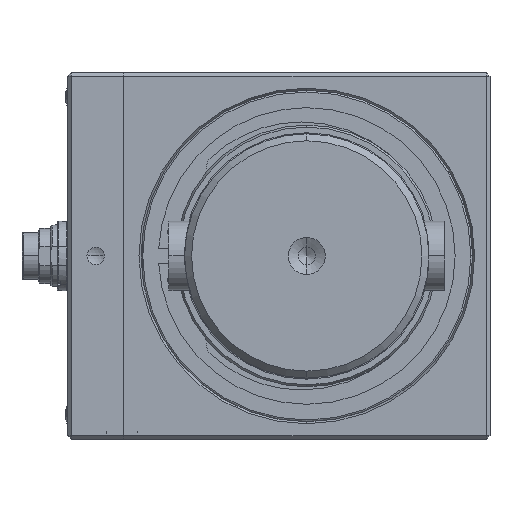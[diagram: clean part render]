
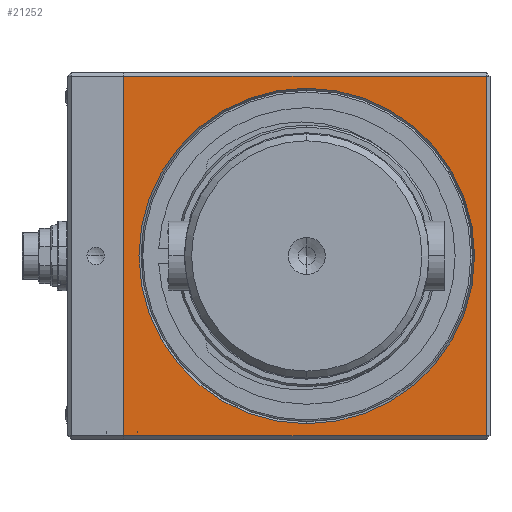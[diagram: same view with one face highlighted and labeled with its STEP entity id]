
A CAD part, left-side view. The second image highlights one B-rep face of the part: STEP entity #21252.
In plain terms, the highlighted planar face has unit normal (-1, 0, 0).
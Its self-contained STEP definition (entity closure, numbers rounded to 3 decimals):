
#648 = EDGE_LOOP ( 'NONE', ( #151722, #13462, #150979, #88430 ) ) ;
#1355 = EDGE_LOOP ( 'NONE', ( #25242, #99247 ) ) ;
#3096 = AXIS2_PLACEMENT_3D ( 'NONE', #38471, #153470, #22234 ) ;
#7714 = DIRECTION ( 'NONE',  ( 0., 0., 1. ) ) ;
#10822 = DIRECTION ( 'NONE',  ( 0., 0., 1. ) ) ;
#13462 = ORIENTED_EDGE ( 'NONE', *, *, #138278, .T. ) ;
#15148 = EDGE_CURVE ( 'NONE', #185961, #88871, #101540, .T. ) ;
#17148 = DIRECTION ( 'NONE',  ( 0., 1., 0. ) ) ;
#20211 = LINE ( 'NONE', #122789, #42268 ) ;
#21252 = ADVANCED_FACE ( 'NONE', ( #154435, #23195 ), #184988, .F. ) ;
#22234 = DIRECTION ( 'NONE',  ( 0., 0., -1. ) ) ;
#23083 = AXIS2_PLACEMENT_3D ( 'NONE', #129477, #187680, #173349 ) ;
#23195 = FACE_OUTER_BOUND ( 'NONE', #648, .T. ) ;
#25242 = ORIENTED_EDGE ( 'NONE', *, *, #73799, .T. ) ;
#27912 = CARTESIAN_POINT ( 'NONE',  ( -95., -51.5, 51.5 ) ) ;
#30394 = VECTOR ( 'NONE', #146900, 1000. ) ;
#31477 = EDGE_CURVE ( 'NONE', #158113, #88871, #142114, .T. ) ;
#36187 = CARTESIAN_POINT ( 'NONE',  ( -95., 0., -48.077 ) ) ;
#38471 = CARTESIAN_POINT ( 'NONE',  ( -95., -52.5, 52.5 ) ) ;
#42268 = VECTOR ( 'NONE', #7714, 1000. ) ;
#44824 = CARTESIAN_POINT ( 'NONE',  ( -95., 52.5, -51.5 ) ) ;
#45763 = AXIS2_PLACEMENT_3D ( 'NONE', #80367, #183727, #182758 ) ;
#51872 = CARTESIAN_POINT ( 'NONE',  ( -95., 0., 48.077 ) ) ;
#58716 = CARTESIAN_POINT ( 'NONE',  ( -95., -52.5, -51.5 ) ) ;
#73799 = EDGE_CURVE ( 'NONE', #93337, #80910, #100986, .T. ) ;
#80367 = CARTESIAN_POINT ( 'NONE',  ( -95., 0., 0. ) ) ;
#80910 = VERTEX_POINT ( 'NONE', #36187 ) ;
#83730 = CARTESIAN_POINT ( 'NONE',  ( -95., -51.5, -51.5 ) ) ;
#84622 = EDGE_CURVE ( 'NONE', #80910, #93337, #108888, .T. ) ;
#88430 = ORIENTED_EDGE ( 'NONE', *, *, #15148, .T. ) ;
#88513 = LINE ( 'NONE', #58716, #30394 ) ;
#88871 = VERTEX_POINT ( 'NONE', #166125 ) ;
#93337 = VERTEX_POINT ( 'NONE', #51872 ) ;
#99247 = ORIENTED_EDGE ( 'NONE', *, *, #84622, .T. ) ;
#100596 = CARTESIAN_POINT ( 'NONE',  ( -95., 52.5, 51.5 ) ) ;
#100986 = CIRCLE ( 'NONE', #45763, 48.077 ) ;
#101540 = LINE ( 'NONE', #100596, #119075 ) ;
#104058 = EDGE_CURVE ( 'NONE', #111865, #185961, #20211, .T. ) ;
#108888 = CIRCLE ( 'NONE', #23083, 48.077 ) ;
#111865 = VERTEX_POINT ( 'NONE', #83730 ) ;
#119075 = VECTOR ( 'NONE', #17148, 1000. ) ;
#122789 = CARTESIAN_POINT ( 'NONE',  ( -95., -51.5, 52.5 ) ) ;
#129477 = CARTESIAN_POINT ( 'NONE',  ( -95., 0., 0. ) ) ;
#138278 = EDGE_CURVE ( 'NONE', #158113, #111865, #88513, .T. ) ;
#142114 = LINE ( 'NONE', #169821, #155203 ) ;
#146900 = DIRECTION ( 'NONE',  ( 0., -1., 0. ) ) ;
#150979 = ORIENTED_EDGE ( 'NONE', *, *, #104058, .T. ) ;
#151722 = ORIENTED_EDGE ( 'NONE', *, *, #31477, .F. ) ;
#153470 = DIRECTION ( 'NONE',  ( 1., 0., 0. ) ) ;
#154435 = FACE_BOUND ( 'NONE', #1355, .T. ) ;
#155203 = VECTOR ( 'NONE', #10822, 1000. ) ;
#158113 = VERTEX_POINT ( 'NONE', #44824 ) ;
#166125 = CARTESIAN_POINT ( 'NONE',  ( -95., 52.5, 51.5 ) ) ;
#169821 = CARTESIAN_POINT ( 'NONE',  ( -95., 52.5, 52.5 ) ) ;
#173349 = DIRECTION ( 'NONE',  ( 0., 0., -1. ) ) ;
#182758 = DIRECTION ( 'NONE',  ( 0., 0., -1. ) ) ;
#183727 = DIRECTION ( 'NONE',  ( 1., 0., 0. ) ) ;
#184988 = PLANE ( 'NONE',  #3096 ) ;
#185961 = VERTEX_POINT ( 'NONE', #27912 ) ;
#187680 = DIRECTION ( 'NONE',  ( 1., 0., 0. ) ) ;
